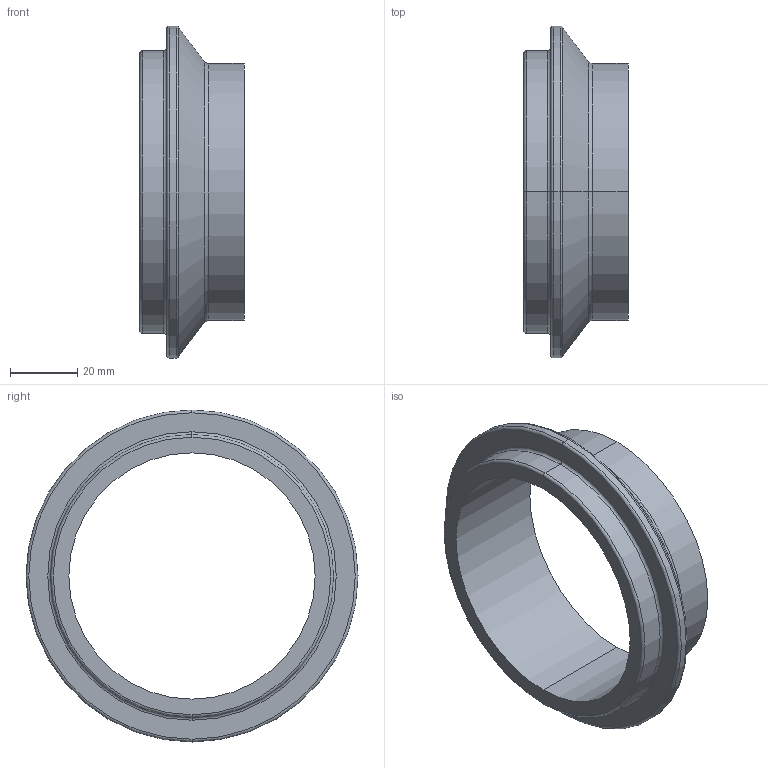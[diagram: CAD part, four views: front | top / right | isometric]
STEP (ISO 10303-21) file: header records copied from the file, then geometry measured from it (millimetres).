
FILE_DESCRIPTION (( 'STEP AP214' ), '1' );
FILE_NAME ('E14WI 3.0 REV2.STEP', '2025-07-18T14:31:31', ( '' ), ( '' ), 'SwSTEP 2.0', 'SolidWorks 2022', '' );
FILE_SCHEMA (( 'AUTOMOTIVE_DESIGN' ));
Length unit declared in the file: inch
Products named in the file (1): E14WI 3.0 REV2
Bounding box: 30.99 x 98.42 x 98.42 mm (x, y, z)
Volume: 41340.1 mm3; surface area: 20213.8 mm2
Topology: 1 solids, 1 shells, 23 faces, 46 edges, 26 vertices
Faces by surface type: torus 10, cylinder 8, plane 3, cone 2
Entity records: 648 total; most frequent: DIRECTION 130, CARTESIAN_POINT 96, ORIENTED_EDGE 92, AXIS2_PLACEMENT_3D 60, EDGE_CURVE 46, CIRCLE 36, EDGE_LOOP 26, VERTEX_POINT 26
